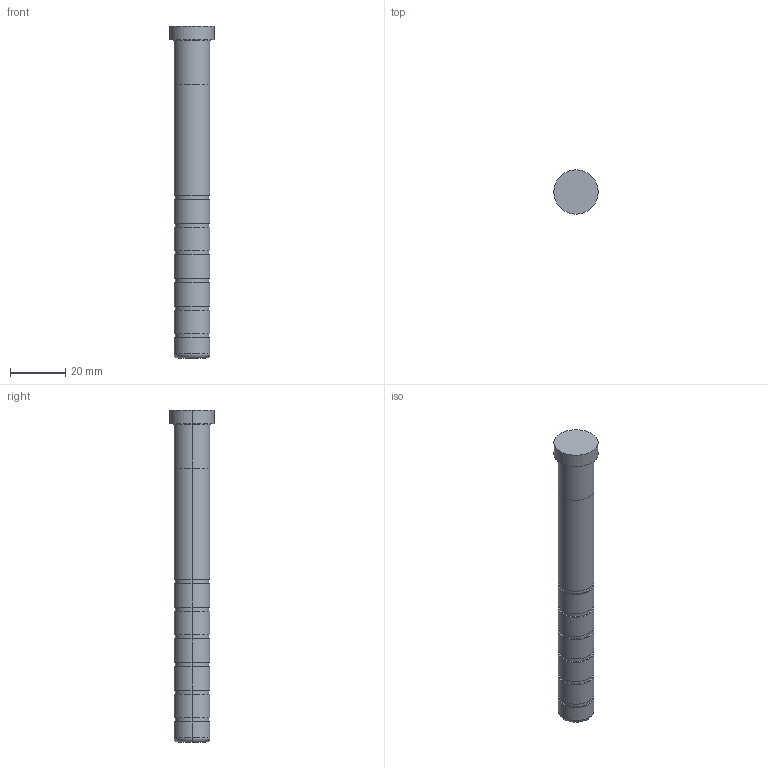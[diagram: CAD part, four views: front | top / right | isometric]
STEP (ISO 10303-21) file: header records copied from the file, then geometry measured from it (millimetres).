
FILE_DESCRIPTION(/* description */ (''),/* implementation_level */ '2;1');
FILE_NAME(/* name */ '3d_sgoh13-120_05229_r00.stp',/* time_stamp */ '2011-01-10T14:11:10+09:00',/* author */ ('MISUMI'),/* organization */ (''),/* preprocessor_version */ 'ST-DEVELOPER v11',/* originating_system */ 'UGS - NX 5.0',/* authorisation */ '');
FILE_SCHEMA (('CONFIG_CONTROL_DESIGN'));
Length unit declared in the file: millimetre
Products named in the file (1): 3d_sgoh13-120_05229_r00
Bounding box: 16 x 16 x 120 mm (x, y, z)
Volume: 16074.7 mm3; surface area: 5525.8 mm2
Topology: 1 solids, 1 shells, 49 faces, 96 edges, 62 vertices
Faces by surface type: cylinder 30, plane 15, torus 4
Entity records: 1374 total; most frequent: DIRECTION 262, CARTESIAN_POINT 208, ORIENTED_EDGE 192, AXIS2_PLACEMENT_3D 116, EDGE_CURVE 96, CIRCLE 66, EDGE_LOOP 62, VERTEX_POINT 62
